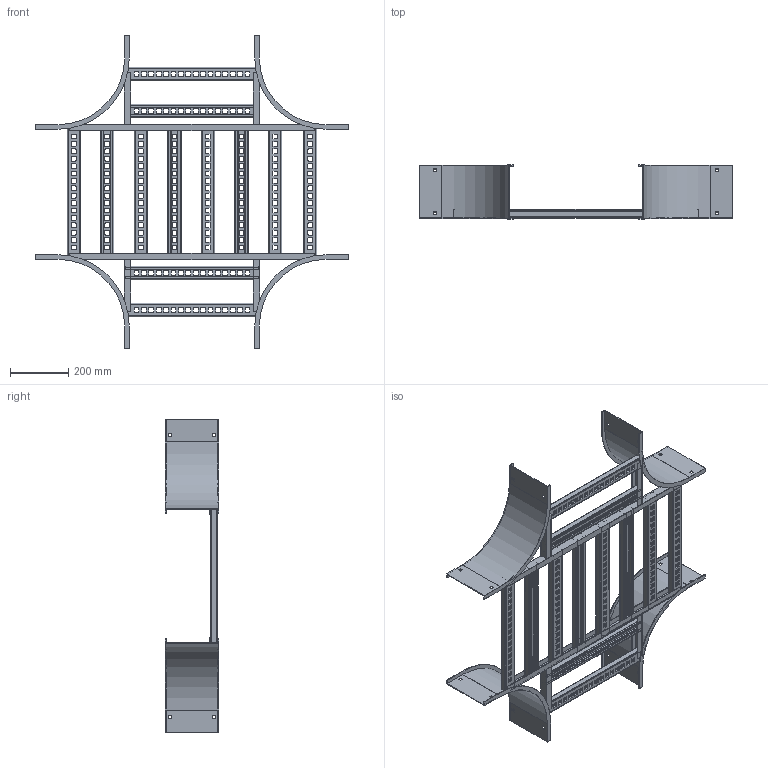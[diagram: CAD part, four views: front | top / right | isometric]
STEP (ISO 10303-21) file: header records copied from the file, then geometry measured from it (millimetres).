
FILE_DESCRIPTION((''),'2;1');
FILE_NAME('AUF718VHX12_ASM','2010-02-02T',('erouzier'),(''),'PRO/ENGINEER BY PARAMETRIC TECHNOLOGY CORPORATION, 2008510','PRO/ENGINEER BY PARAMETRIC TECHNOLOGY CORPORATION, 2008510','');
FILE_SCHEMA(('CONFIG_CONTROL_DESIGN'));
Length unit declared in the file: inch
Products named in the file (17): CDS001322-7-90-9-I; CDS002159L18-P_AF8; CDS002159L18-P_AF9; CDS002159L18-P_AF10; CDS002159L18-P_AF11; CDS002159L18-P_AF12; CDS002159L18-P_AF13; CDS002159L18-P_AF14; CDS002159L18-P_AF15; CDS000495_GEN_AF18; CDS000495_GEN_AF19; CDS000495_GEN_AF22; CDS000495_GEN_AF23; CDS000495_GEN_AF20; CDS000495_GEN_AF21; CDS002159L18-P; AUF718VHX12_ASM
Assembly tree (22 placements, depth 2):
  AUF718VHX12_ASM
    CDS001322-7-90-9-I  x4
    CDS002159L18-P_AF8
    CDS002159L18-P_AF9
    CDS002159L18-P_AF10
    CDS002159L18-P_AF11
    CDS002159L18-P_AF12
    CDS002159L18-P_AF13
    CDS002159L18-P_AF14
    CDS002159L18-P_AF15
    CDS000495_GEN_AF18
    CDS000495_GEN_AF19
    CDS000495_GEN_AF22
    CDS000495_GEN_AF23
    CDS000495_GEN_AF20
    CDS000495_GEN_AF21
    CDS002159L18-P  x4
Bounding box: 1072.39 x 183.9 x 1072.39 mm (x, y, z)
Volume: 2310636.1 mm3; surface area: 2427514.9 mm2
Topology: 22 solids, 22 shells, 2092 faces, 6144 edges, 4096 vertices
Faces by surface type: plane 1176, cylinder 916
Entity records: 51703 total; most frequent: CARTESIAN_POINT 8975, DIRECTION 8920, ORIENTED_EDGE 8904, EDGE_CURVE 4452, VECTOR 3094, LINE 3094, VERTEX_POINT 2968, AXIS2_PLACEMENT_3D 2913
